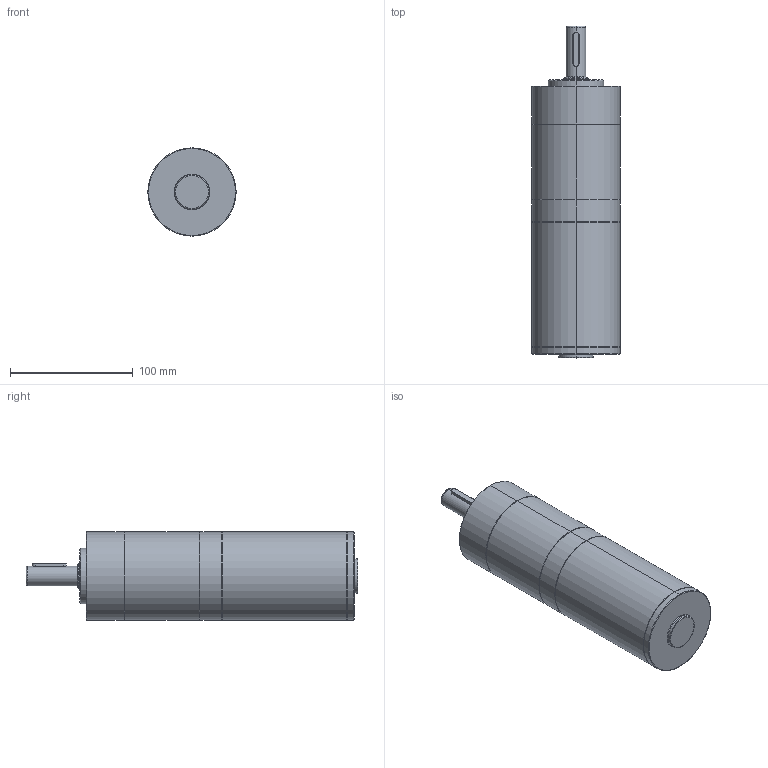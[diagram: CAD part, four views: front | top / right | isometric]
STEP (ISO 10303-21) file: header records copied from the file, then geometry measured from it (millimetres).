
FILE_DESCRIPTION (( 'STEP AP203' ), '1' );
FILE_NAME ('72BLD150W减速比三级整机.STEP', '2021-07-16T04:53:33', ( '' ), ( '' ), 'SwSTEP 2.0', 'SolidWorks 2021', '' );
FILE_SCHEMA (( 'CONFIG_CONTROL_DESIGN' ));
Length unit declared in the file: millimetre
Products named in the file (3): 72BLD150W减速比三级整机; 72酗; 72PN三级
Assembly tree (2 placements, depth 2):
  72BLD150W减速比三级整机
    72PN三级
    72酗
Bounding box: 72 x 270.8 x 72 mm (x, y, z)
Volume: 897636.1 mm3; surface area: 72218.8 mm2
Topology: 2 solids, 2 shells, 162 faces, 353 edges, 209 vertices
Faces by surface type: cylinder 52, plane 50, cone 38, bspline 14, torus 8
Entity records: 5016 total; most frequent: CARTESIAN_POINT 1203, DIRECTION 787, ORIENTED_EDGE 686, EDGE_CURVE 343, AXIS2_PLACEMENT_3D 309, VERTEX_POINT 209, EDGE_LOOP 186, VECTOR 169
